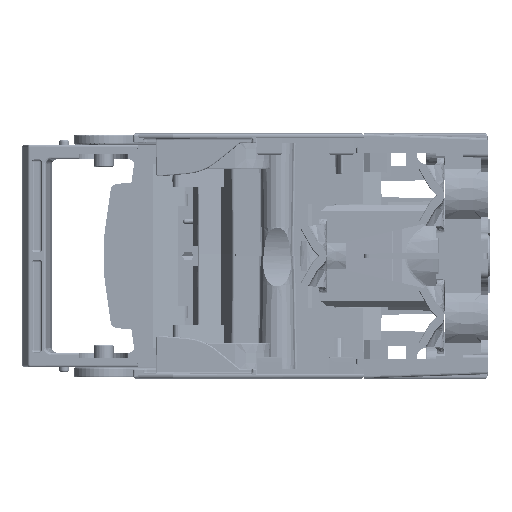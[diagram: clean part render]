
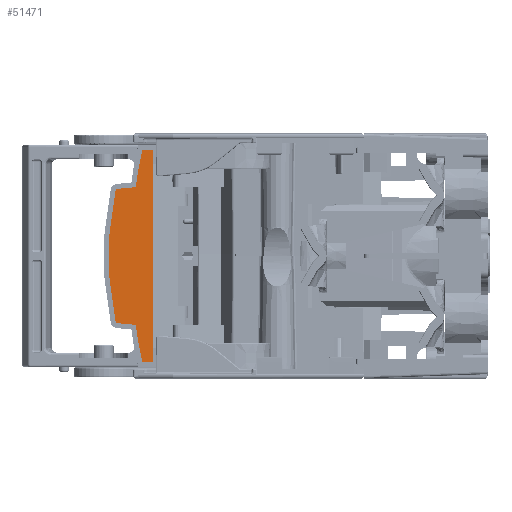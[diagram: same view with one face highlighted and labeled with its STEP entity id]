
A CAD part, left-side view. The second image highlights one B-rep face of the part: STEP entity #51471.
In plain terms, the highlighted planar face has unit normal (-1, 0, 0).
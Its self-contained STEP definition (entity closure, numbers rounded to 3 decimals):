
#8340 = CARTESIAN_POINT ( 'NONE',  ( -375., 99.276, -26.163 ) ) ;
#8345 = DIRECTION ( 'NONE',  ( -1., 0., 0. ) ) ;
#8352 = DIRECTION ( 'NONE',  ( 0., 0., 1. ) ) ;
#38953 = CARTESIAN_POINT ( 'NONE',  ( -375., 89.564, 42.208 ) ) ;
#38961 = CARTESIAN_POINT ( 'NONE',  ( -375., 92.088, 27.796 ) ) ;
#38971 = CARTESIAN_POINT ( 'NONE',  ( -375., 99.363, 27.16 ) ) ;
#38979 = CARTESIAN_POINT ( 'NONE',  ( -375., 88.585, -43. ) ) ;
#38989 = CARTESIAN_POINT ( 'NONE',  ( -375., 88.585, 43. ) ) ;
#39712 = CARTESIAN_POINT ( 'NONE',  ( -375., 99.363, -27.16 ) ) ;
#40126 = CARTESIAN_POINT ( 'NONE',  ( -375., 85., 43. ) ) ;
#40193 = CARTESIAN_POINT ( 'NONE',  ( -375., 85., -43. ) ) ;
#40399 = CARTESIAN_POINT ( 'NONE',  ( -375., 92.088, -27.796 ) ) ;
#40978 = CARTESIAN_POINT ( 'NONE',  ( -375., 100.254, -26.369 ) ) ;
#42170 = CARTESIAN_POINT ( 'NONE',  ( -375., 89.564, -42.208 ) ) ;
#51471 = ADVANCED_FACE ( 'NONE', ( #405864 ), #405869, .T. ) ;
#60073 = EDGE_CURVE ( 'NONE', #208628, #204443, #348911, .T. ) ;
#60805 = EDGE_CURVE ( 'NONE', #206703, #206614, #371163, .T. ) ;
#63120 = EDGE_CURVE ( 'NONE', #207576, #205946, #569955, .T. ) ;
#65648 = EDGE_CURVE ( 'NONE', #204405, #204416, #150454, .T. ) ;
#65653 = EDGE_CURVE ( 'NONE', #204405, #201093, #129410, .T. ) ;
#65661 = EDGE_CURVE ( 'NONE', #204461, #204401, #129513, .T. ) ;
#65680 = EDGE_CURVE ( 'NONE', #204461, #206614, #150802, .T. ) ;
#65792 = EDGE_CURVE ( 'NONE', #204443, #206703, #152392, .T. ) ;
#65829 = EDGE_CURVE ( 'NONE', #204416, #204401, #253092, .T. ) ;
#66404 = EDGE_CURVE ( 'NONE', #206943, #208628, #255024, .T. ) ;
#66464 = EDGE_CURVE ( 'NONE', #205946, #206943, #283504, .T. ) ;
#66667 = EDGE_CURVE ( 'NONE', #201093, #207576, #256065, .T. ) ;
#129399 = VECTOR ( 'NONE', #150460, 1000. ) ;
#129410 = CIRCLE ( 'NONE', #129439, 1. ) ;
#129439 = AXIS2_PLACEMENT_3D ( 'NONE', #150495, #150498, #150501 ) ;
#129513 = CIRCLE ( 'NONE', #129528, 1. ) ;
#129528 = AXIS2_PLACEMENT_3D ( 'NONE', #150631, #150634, #150640 ) ;
#129626 = VECTOR ( 'NONE', #150858, 1000. ) ;
#150454 = LINE ( 'NONE', #150457, #129399 ) ;
#150457 = CARTESIAN_POINT ( 'NONE',  ( -375., 100.099, 27.095 ) ) ;
#150460 = DIRECTION ( 'NONE',  ( 0., -0.996, 0.087 ) ) ;
#150495 = CARTESIAN_POINT ( 'NONE',  ( -375., 99.276, 26.163 ) ) ;
#150498 = DIRECTION ( 'NONE',  ( -1., 0., 0. ) ) ;
#150501 = DIRECTION ( 'NONE',  ( 0., 0., 1. ) ) ;
#150631 = CARTESIAN_POINT ( 'NONE',  ( -375., 88.585, 42. ) ) ;
#150634 = DIRECTION ( 'NONE',  ( -1., 0., 0. ) ) ;
#150640 = DIRECTION ( 'NONE',  ( 0., 0., 1. ) ) ;
#150802 = LINE ( 'NONE', #150846, #129626 ) ;
#150846 = CARTESIAN_POINT ( 'NONE',  ( -375., 89.394, 43. ) ) ;
#150858 = DIRECTION ( 'NONE',  ( 0., -1., 0. ) ) ;
#152392 = LINE ( 'NONE', #152394, #252971 ) ;
#152394 = CARTESIAN_POINT ( 'NONE',  ( -375., 89.394, -43. ) ) ;
#152398 = DIRECTION ( 'NONE',  ( 0., -1., 0. ) ) ;
#152838 = CARTESIAN_POINT ( 'NONE',  ( -375., -109., 0. ) ) ;
#152842 = DIRECTION ( 'NONE',  ( 1., 0., 0. ) ) ;
#152846 = DIRECTION ( 'NONE',  ( 0., 0., -1. ) ) ;
#182837 = EDGE_LOOP ( 'NONE', ( #552038, #552045, #552054, #552058, #552061, #552072, #552078, #552082, #552084, #552087, #552094, #552100 ) ) ;
#201093 = VERTEX_POINT ( 'NONE', #567347 ) ;
#204401 = VERTEX_POINT ( 'NONE', #38953 ) ;
#204405 = VERTEX_POINT ( 'NONE', #38971 ) ;
#204416 = VERTEX_POINT ( 'NONE', #38961 ) ;
#204443 = VERTEX_POINT ( 'NONE', #38979 ) ;
#204461 = VERTEX_POINT ( 'NONE', #38989 ) ;
#205946 = VERTEX_POINT ( 'NONE', #39712 ) ;
#206614 = VERTEX_POINT ( 'NONE', #40126 ) ;
#206703 = VERTEX_POINT ( 'NONE', #40193 ) ;
#206943 = VERTEX_POINT ( 'NONE', #40399 ) ;
#207576 = VERTEX_POINT ( 'NONE', #40978 ) ;
#208628 = VERTEX_POINT ( 'NONE', #42170 ) ;
#252971 = VECTOR ( 'NONE', #152398, 1000. ) ;
#253089 = AXIS2_PLACEMENT_3D ( 'NONE', #152838, #152842, #152846 ) ;
#253092 = CIRCLE ( 'NONE', #253089, 203. ) ;
#255024 = CIRCLE ( 'NONE', #255032, 203. ) ;
#255032 = AXIS2_PLACEMENT_3D ( 'NONE', #282267, #282270, #282276 ) ;
#255278 = VECTOR ( 'NONE', #283518, 1000. ) ;
#256065 = CIRCLE ( 'NONE', #256075, 128. ) ;
#256075 = AXIS2_PLACEMENT_3D ( 'NONE', #287167, #287174, #287181 ) ;
#282267 = CARTESIAN_POINT ( 'NONE',  ( -375., -109., 0. ) ) ;
#282270 = DIRECTION ( 'NONE',  ( -1., 0., 0. ) ) ;
#282276 = DIRECTION ( 'NONE',  ( 0., 0., 1. ) ) ;
#283504 = LINE ( 'NONE', #283512, #255278 ) ;
#283512 = CARTESIAN_POINT ( 'NONE',  ( -375., 100.099, -27.095 ) ) ;
#283518 = DIRECTION ( 'NONE',  ( 0., -0.996, -0.087 ) ) ;
#287167 = CARTESIAN_POINT ( 'NONE',  ( -375., -25., 0. ) ) ;
#287174 = DIRECTION ( 'NONE',  ( -1., 0., 0. ) ) ;
#287181 = DIRECTION ( 'NONE',  ( 0., 0., 1. ) ) ;
#348911 = CIRCLE ( 'NONE', #348950, 1. ) ;
#348950 = AXIS2_PLACEMENT_3D ( 'NONE', #354234, #354238, #354245 ) ;
#349842 = VECTOR ( 'NONE', #371228, 1000. ) ;
#354234 = CARTESIAN_POINT ( 'NONE',  ( -375., 88.585, -42. ) ) ;
#354238 = DIRECTION ( 'NONE',  ( -1., 0., 0. ) ) ;
#354245 = DIRECTION ( 'NONE',  ( 0., 0., 1. ) ) ;
#371163 = LINE ( 'NONE', #371224, #349842 ) ;
#371224 = CARTESIAN_POINT ( 'NONE',  ( -375., 85., -43. ) ) ;
#371228 = DIRECTION ( 'NONE',  ( 0., 0., 1. ) ) ;
#405864 = FACE_OUTER_BOUND ( 'NONE', #182837, .T. ) ;
#405869 = PLANE ( 'NONE',  #449246 ) ;
#405967 = CARTESIAN_POINT ( 'NONE',  ( -375., -109., 0. ) ) ;
#405973 = DIRECTION ( 'NONE',  ( -1., 0., 0. ) ) ;
#405980 = DIRECTION ( 'NONE',  ( 0., 0., 1. ) ) ;
#449246 = AXIS2_PLACEMENT_3D ( 'NONE', #405967, #405973, #405980 ) ;
#552038 = ORIENTED_EDGE ( 'NONE', *, *, #65680, .F. ) ;
#552045 = ORIENTED_EDGE ( 'NONE', *, *, #65661, .T. ) ;
#552054 = ORIENTED_EDGE ( 'NONE', *, *, #65829, .F. ) ;
#552058 = ORIENTED_EDGE ( 'NONE', *, *, #65648, .F. ) ;
#552061 = ORIENTED_EDGE ( 'NONE', *, *, #65653, .T. ) ;
#552072 = ORIENTED_EDGE ( 'NONE', *, *, #66667, .T. ) ;
#552078 = ORIENTED_EDGE ( 'NONE', *, *, #63120, .T. ) ;
#552082 = ORIENTED_EDGE ( 'NONE', *, *, #66464, .T. ) ;
#552084 = ORIENTED_EDGE ( 'NONE', *, *, #66404, .T. ) ;
#552087 = ORIENTED_EDGE ( 'NONE', *, *, #60073, .T. ) ;
#552094 = ORIENTED_EDGE ( 'NONE', *, *, #65792, .T. ) ;
#552100 = ORIENTED_EDGE ( 'NONE', *, *, #60805, .T. ) ;
#567347 = CARTESIAN_POINT ( 'NONE',  ( -375., 100.254, 26.369 ) ) ;
#569955 = CIRCLE ( 'NONE', #569961, 1. ) ;
#569961 = AXIS2_PLACEMENT_3D ( 'NONE', #8340, #8345, #8352 ) ;
